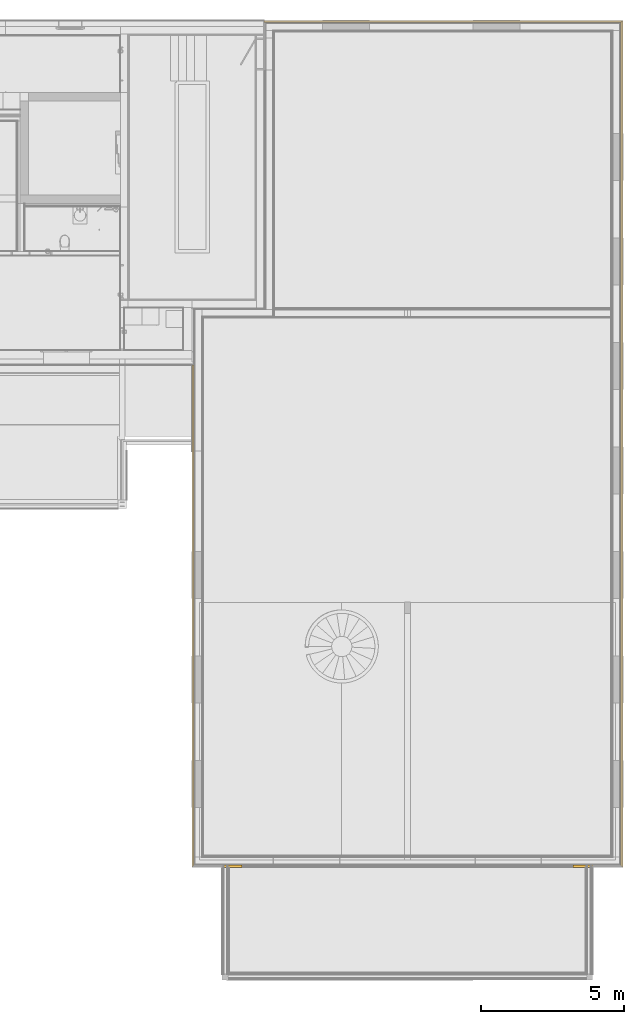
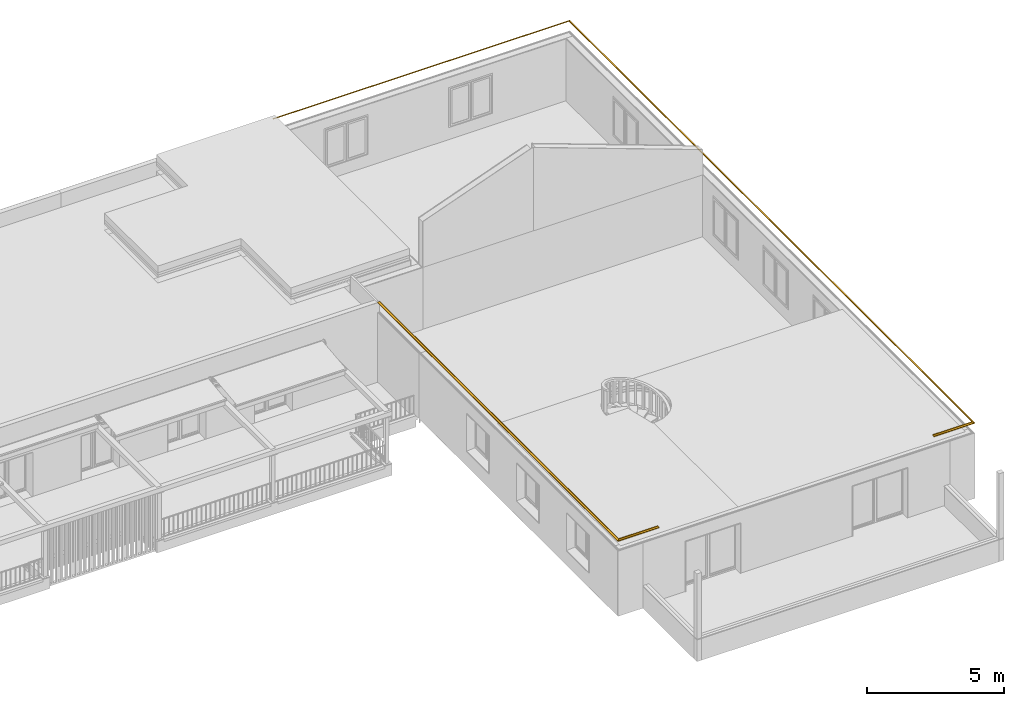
# One storey, part 20 of 36: 5 curtain walls.
"""IFC4 building model written with IfcOpenShell, lengths in millimetres."""

from ifc_helpers import new_model, entity, si_unit, converted_unit, derived_unit, direction, frame, origin_with_axes, place, context, subcontext, project, spatial, polygons, material, constituent, constituent_set, type_object, element, save


model = new_model("IFC4")

# Units and contexts
model_context = context("Model", 3, precision=0.01, world=origin_with_axes(), true_north=direction((0.0, 1.0)))
body_context = subcontext(model_context, "Body", "Model", "MODEL_VIEW")
ifc_project = project(units=[si_unit("LENGTHUNIT", "METRE", prefix="MILLI"), si_unit("AREAUNIT", "SQUARE_METRE"), si_unit("VOLUMEUNIT", "CUBIC_METRE"), converted_unit("PLANEANGLEUNIT", "DEGREE", entity("IfcPlaneAngleMeasure", 0.0174532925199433), si_unit("PLANEANGLEUNIT", "RADIAN"), dimensions=[0, 0, 0, 0, 0, 0, 0]), converted_unit("TIMEUNIT", "Year", entity("IfcTimeMeasure", 31557600.0), si_unit("TIMEUNIT", "SECOND"), dimensions=[0, 0, 1, 0, 0, 0, 0]), si_unit("MASSUNIT", "GRAM", prefix="KILO"), si_unit("THERMODYNAMICTEMPERATUREUNIT", "DEGREE_CELSIUS"), si_unit("LUMINOUSINTENSITYUNIT", "LUMEN"), si_unit("ENERGYUNIT", "JOULE", prefix="MEGA"), derived_unit("THERMALCONDUCTANCEUNIT", [(si_unit("POWERUNIT", "WATT"), 1), (si_unit("LENGTHUNIT", "METRE"), -1), (si_unit("THERMODYNAMICTEMPERATUREUNIT", "KELVIN"), -1)]), derived_unit("SPECIFICHEATCAPACITYUNIT", [(si_unit("ENERGYUNIT", "JOULE"), 1), (si_unit("MASSUNIT", "GRAM", prefix="KILO"), -1), (si_unit("THERMODYNAMICTEMPERATUREUNIT", "KELVIN"), -1)]), derived_unit("MASSDENSITYUNIT", [(si_unit("MASSUNIT", "GRAM", prefix="KILO"), 1), (si_unit("VOLUMEUNIT", "CUBIC_METRE"), -1)])], contexts=[model_context])

# Site, building, storey
site_placement = place(None, origin_with_axes())
site = spatial("IfcSite", under=ifc_project, at=site_placement, Name="Gelände", CompositionType="ELEMENT")
building_placement = place(site_placement, origin_with_axes())
building = spatial("IfcBuilding", under=site, at=building_placement, Name="Gebäude", CompositionType="ELEMENT")
storey_placement = place(building_placement, frame((0.0, 0.0, 8700.0), z_axis=(0.0, 0.0, 1.0), x_axis=(1.0, 0.0, 0.0)))
storey = spatial("IfcBuildingStorey", under=building, at=storey_placement, Name="Attika", CompositionType="ELEMENT", Elevation=8700.0)

# Curtain walls
ifc_material = material(Name="Stahl")
ifc_constituent_1 = constituent(ifc_material, Name="Stahl")
ifc_constituent_set_1 = constituent_set(constituents=[ifc_constituent_1], Name="Fassadentrennblech 01")
curtain_wall_type = type_object("IfcCurtainWallType", Name="Fassadentrennblech 01 80 x 71", PredefinedType="NOTDEFINED")
curtain_wall_1_placement = place(storey_placement, frame((32857.99744391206, 37876.59726257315, 3858.955246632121), z_axis=(0.0, 0.0, 1.0), x_axis=(1.512977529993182e-09, 1.0, 0.0)))
element("IfcCurtainWall", 1, at=curtain_wall_1_placement, inside=storey, type_object=curtain_wall_type, material=ifc_constituent_set_1, Name="Unterzug-032", PredefinedType="NOTDEFINED", context=body_context, shape_type="Tessellation", body=[
    polygons([(0.0, 0.0, 9.685927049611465), (0.0, 12428.99999914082, 9.685927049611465), (77.40470302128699, 12428.99999914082, 2.044753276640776), (77.40470302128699, -77.40470290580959, 2.044753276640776), (0.0, 0.0, 42.69563025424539), (0.0, 12428.99999914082, 42.69563025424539), (2.700001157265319, 12428.99999914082, 42.69563025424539), (2.700001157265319, 12428.99999914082, 12.52688023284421), (80.10479082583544, 12428.99999914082, 4.571509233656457), (80.10474928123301, 12428.99999914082, -27.95524672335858), (77.40470302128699, 12428.99999914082, -27.95524672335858), (77.40470302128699, -77.40470290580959, -27.95524672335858), (80.10474928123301, -80.10474916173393, -27.95524672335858), (80.10479082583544, -80.10479070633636, 4.571509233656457), (2.700001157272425, -2.700001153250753, 12.52688023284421), (2.700001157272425, -2.700001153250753, 42.69563025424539)], [[[1, 2, 3, 4]], [[5, 6, 2, 1]], [[3, 2, 6, 7, 8, 9, 10, 11]], [[4, 3, 11, 12]], [[5, 1, 4, 12, 13, 14, 15, 16]], [[16, 7, 6, 5]], [[15, 8, 7, 16]], [[14, 9, 8, 15]], [[13, 10, 9, 14]], [[12, 11, 10, 13]]], closed=True),
])
ifc_constituent_2 = constituent(ifc_material, Name="Stahl")
ifc_constituent_set_2 = constituent_set(constituents=[ifc_constituent_2], Name="Fassadentrennblech 01")
curtain_wall_2_placement = place(storey_placement, frame((32857.99744391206, 37876.59726257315, 3858.955246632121), z_axis=(0.0, 0.0, 1.0), x_axis=(-1.0, 0.0, 0.0)))
element("IfcCurtainWall", 2, at=curtain_wall_2_placement, inside=storey, type_object=curtain_wall_type, material=ifc_constituent_set_2, Name="Unterzug-032", PredefinedType="NOTDEFINED", context=body_context, shape_type="Tessellation", body=[
    polygons([(0.0, 0.0, 42.69563025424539), (0.0, 29357.99998141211, 42.69563025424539), (-2.700001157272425, 29360.69998256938, 42.69563025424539), (-2.700001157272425, -2.700001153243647, 42.69563025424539), (0.0, 0.0, 9.685927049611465), (0.0, 29357.99998141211, 9.685927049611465), (-77.40470302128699, 29435.4046844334, 2.044753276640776), (-77.40470302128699, 29435.4046844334, -27.95524672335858), (-80.10474928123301, 29438.10473069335, -27.95524672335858), (-80.10479082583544, 29438.10477223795, 4.571509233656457), (-2.700001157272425, 29360.69998256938, 12.52688023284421), (-2.700001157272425, -2.700001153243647, 12.52688023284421), (-80.10479082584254, -80.10479070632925, 4.571509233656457), (-80.10474928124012, -80.10474916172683, -27.95524672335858), (-77.40470302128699, -77.40470290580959, -27.95524672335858), (-77.40470302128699, -77.40470290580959, 2.044753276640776)], [[[1, 2, 3, 4]], [[5, 6, 2, 1]], [[3, 2, 6, 7, 8, 9, 10, 11]], [[4, 3, 11, 12]], [[5, 1, 4, 12, 13, 14, 15, 16]], [[16, 7, 6, 5]], [[15, 8, 7, 16]], [[14, 9, 8, 15]], [[13, 10, 9, 14]], [[12, 11, 10, 13]]], closed=True),
])
ifc_constituent_3 = constituent(ifc_material, Name="Stahl")
ifc_constituent_set_3 = constituent_set(constituents=[ifc_constituent_3], Name="Fassadentrennblech 01")
curtain_wall_3_placement = place(storey_placement, frame((32857.9974432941, 8518.597281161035, 3858.955246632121), z_axis=(0.0, 0.0, 1.0), x_axis=(0.0, 1.0, 0.0)))
element("IfcCurtainWall", 3, at=curtain_wall_3_placement, inside=storey, type_object=curtain_wall_type, material=ifc_constituent_set_3, Name="Unterzug-032", PredefinedType="NOTDEFINED", context=body_context, shape_type="Tessellation", body=[
    polygons([(0.0, 0.0, 42.69563025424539), (0.0, 1657.999998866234, 42.69563025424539), (-2.700001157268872, 1657.999998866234, 42.69563025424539), (-2.700001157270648, -2.700001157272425, 42.69563025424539), (0.0, 0.0, 9.685927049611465), (0.0, 1657.999998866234, 9.685927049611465), (-77.40470302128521, 1657.999998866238, 2.044753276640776), (-77.40470302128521, 1657.999998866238, -27.95524672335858), (-80.10474928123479, 1657.999998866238, -27.95524672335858), (-80.10479082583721, 1657.999998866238, 4.571509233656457), (-2.700001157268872, 1657.999998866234, 12.52688023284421), (-2.700001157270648, -2.700001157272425, 12.52688023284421), (-80.10479082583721, -80.10479082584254, 4.571509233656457), (-80.10474928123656, -80.10474928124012, -27.95524672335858), (-77.40470302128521, -77.4047030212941, -27.95524672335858), (-77.40470302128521, -77.4047030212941, 2.044753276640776)], [[[1, 2, 3, 4]], [[5, 6, 2, 1]], [[3, 2, 6, 7, 8, 9, 10, 11]], [[4, 3, 11, 12]], [[5, 1, 4, 12, 13, 14, 15, 16]], [[16, 7, 6, 5]], [[15, 8, 7, 16]], [[14, 9, 8, 15]], [[13, 10, 9, 14]], [[12, 11, 10, 13]]], closed=True),
])
ifc_constituent_4 = constituent(ifc_material, Name="Stahl")
ifc_constituent_set_4 = constituent_set(constituents=[ifc_constituent_4], Name="Fassadentrennblech 01")
curtain_wall_4_placement = place(storey_placement, frame((17999.99744477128, 8518.597281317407, 3858.955246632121), z_axis=(0.0, 0.0, 1.0), x_axis=(0.0, -1.0, 0.0)))
element("IfcCurtainWall", 4, at=curtain_wall_4_placement, inside=storey, type_object=curtain_wall_type, material=ifc_constituent_set_4, Name="Unterzug-032", PredefinedType="NOTDEFINED", context=body_context, shape_type="Tessellation", body=[
    polygons([(0.0, 0.0, 9.685927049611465), (0.0, 1657.999999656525, 9.685927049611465), (77.40470302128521, 1657.999999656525, 2.044753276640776), (77.40470302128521, -77.40470302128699, 2.044753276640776), (0.0, 0.0, 42.69563025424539), (0.0, 1657.999999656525, 42.69563025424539), (2.700001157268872, 1657.999999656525, 42.69563025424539), (2.700001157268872, 1657.999999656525, 12.52688023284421), (80.10479082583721, 1657.999999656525, 4.571509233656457), (80.10474928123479, 1657.999999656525, -27.95524672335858), (77.40470302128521, 1657.999999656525, -27.95524672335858), (77.40470302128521, -77.40470302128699, -27.95524672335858), (80.10474928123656, -80.10474928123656, -27.95524672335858), (80.10479082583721, -80.10479082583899, 4.571509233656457), (2.700001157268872, -2.700001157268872, 12.52688023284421), (2.700001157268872, -2.700001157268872, 42.69563025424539)], [[[1, 2, 3, 4]], [[5, 6, 2, 1]], [[3, 2, 6, 7, 8, 9, 10, 11]], [[4, 3, 11, 12]], [[5, 1, 4, 12, 13, 14, 15, 16]], [[16, 7, 6, 5]], [[15, 8, 7, 16]], [[14, 9, 8, 15]], [[13, 10, 9, 14]], [[12, 11, 10, 13]]], closed=True),
])
ifc_constituent_5 = constituent(ifc_material, Name="Stahl")
ifc_constituent_set_5 = constituent_set(constituents=[ifc_constituent_5], Name="Fassadentrennblech 01")
curtain_wall_5_placement = place(storey_placement, frame((17999.99744477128, 25947.59674077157, 3858.955246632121), z_axis=(0.0, 0.0, 1.0), x_axis=(-1.0, 0.0, 0.0)))
element("IfcCurtainWall", 5, at=curtain_wall_5_placement, inside=storey, type_object=curtain_wall_type, material=ifc_constituent_set_5, Name="Unterzug-032", PredefinedType="NOTDEFINED", context=body_context, shape_type="Tessellation", body=[
    polygons([(77.40470302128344, 17506.40416247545, -27.95524672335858), (77.40470302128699, 7.700084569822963, -27.95524672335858), (77.40470302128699, 7.700087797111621, -25.4284907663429), (77.40470302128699, 0.0, -25.4284907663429), (77.40470302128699, 0.0, 2.044753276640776), (77.40470302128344, 17506.40416247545, 2.044753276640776), (80.10474928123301, 17509.1042087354, -27.95524672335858), (80.10474928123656, 7.700084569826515, -27.95524672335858), (80.10475250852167, 7.700087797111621, -25.4284907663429), (80.10475250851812, 0.0, -25.4284907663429), (80.10479082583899, 0.0, 4.571509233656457), (2.700001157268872, 0.0, 12.52688023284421), (2.700001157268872, 0.0, 42.69563025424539), (0.0, 0.0, 42.69563025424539), (0.0, 0.0, 9.685927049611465), (0.0, 17428.99945945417, 9.685927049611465), (0.0, 17428.99945945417, 42.69563025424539), (2.700001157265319, 17431.69946061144, 42.69563025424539), (2.700001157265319, 17431.69946061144, 12.52688023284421), (80.10479082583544, 17509.10425028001, 4.571509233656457)], [[[1, 2, 3, 4, 5, 6]], [[7, 8, 2, 1]], [[9, 3, 2, 8]], [[9, 10, 4, 3]], [[5, 4, 10, 11, 12, 13, 14, 15]], [[5, 15, 16, 6]], [[1, 6, 16, 17, 18, 19, 20, 7]], [[10, 9, 8, 7, 20, 11]], [[12, 11, 20, 19]], [[13, 12, 19, 18]], [[14, 13, 18, 17]], [[15, 14, 17, 16]]], closed=True),
])

save(model, "model.ifc")
